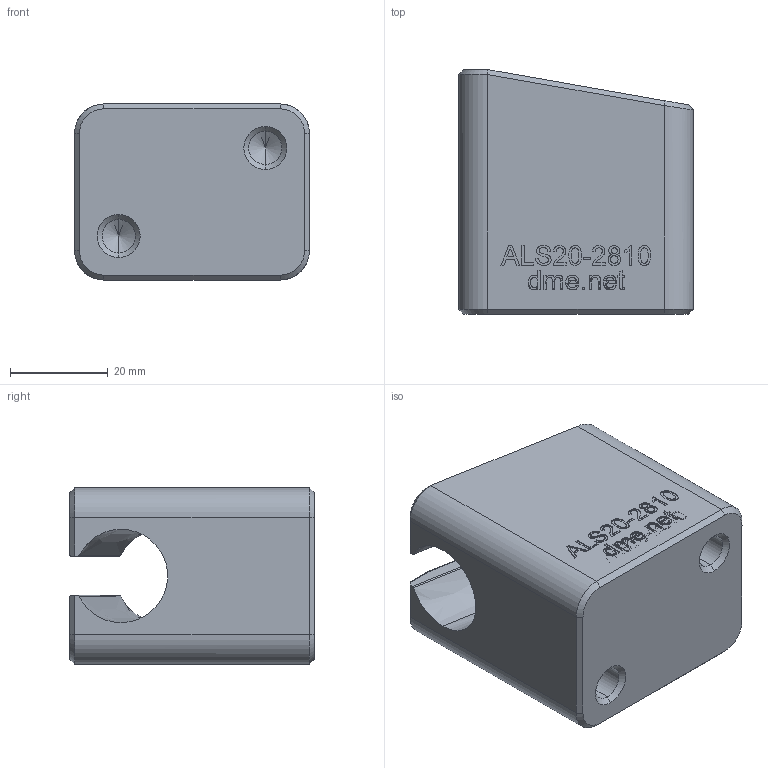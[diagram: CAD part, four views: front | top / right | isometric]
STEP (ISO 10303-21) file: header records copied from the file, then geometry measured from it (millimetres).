
FILE_DESCRIPTION (( 'STEP AP203' ), '1' );
FILE_NAME ('ALS20-2810_Shoe.STEP', '2020-12-21T20:30:09', ( '' ), ( '' ), 'SwSTEP 2.0', 'SolidWorks 2020', '' );
FILE_SCHEMA (( 'CONFIG_CONTROL_DESIGN' ));
Length unit declared in the file: millimetre
Products named in the file (1): ALS20-2810_Shoe
Bounding box: 48 x 50 x 36 mm (x, y, z)
Volume: 63415.1 mm3; surface area: 13125.5 mm2
Topology: 1 solids, 11 shells, 401 faces, 1036 edges, 680 vertices
Faces by surface type: plane 189, bspline 184, cone 14, cylinder 14
Entity records: 22569 total; most frequent: CARTESIAN_POINT 14020, ORIENTED_EDGE 2064, DIRECTION 1108, EDGE_CURVE 1032, VERTEX_POINT 680, VECTOR 624, LINE 624, EDGE_LOOP 438
